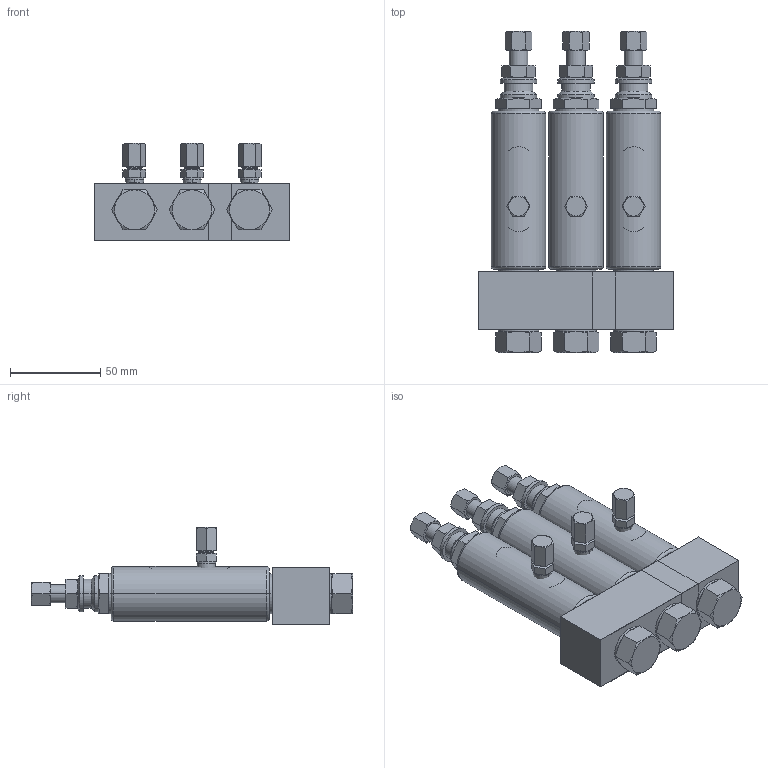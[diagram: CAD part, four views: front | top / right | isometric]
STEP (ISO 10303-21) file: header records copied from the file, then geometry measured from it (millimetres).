
FILE_DESCRIPTION((''),'2;1');
FILE_NAME('114901-EN-Z_PRT','2024-03-22T09:52:28',('qtmwp1'),(''),'CREO PARAMETRIC BY PTC INC, 2023424','CREO PARAMETRIC BY PTC INC, 2023424','');
FILE_SCHEMA(('CONFIG_CONTROL_DESIGN'));
Length unit declared in the file: inch
Products named in the file (1): 114901-EN-Z_PRT
Bounding box: 107.8 x 177.5 x 53.69 mm (x, y, z)
Surface area: 86255.4 mm2 (no closed solid volume)
Topology: 0 solids, 52 shells, 384 faces, 905 edges, 563 vertices
Faces by surface type: plane 164, cone 142, cylinder 66, torus 12
Entity records: 12519 total; most frequent: CARTESIAN_POINT 4212, DIRECTION 1670, ORIENTED_EDGE 1654, EDGE_CURVE 905, AXIS2_PLACEMENT_3D 679, VERTEX_POINT 563, EDGE_LOOP 384, FACE_OUTER_BOUND 384
